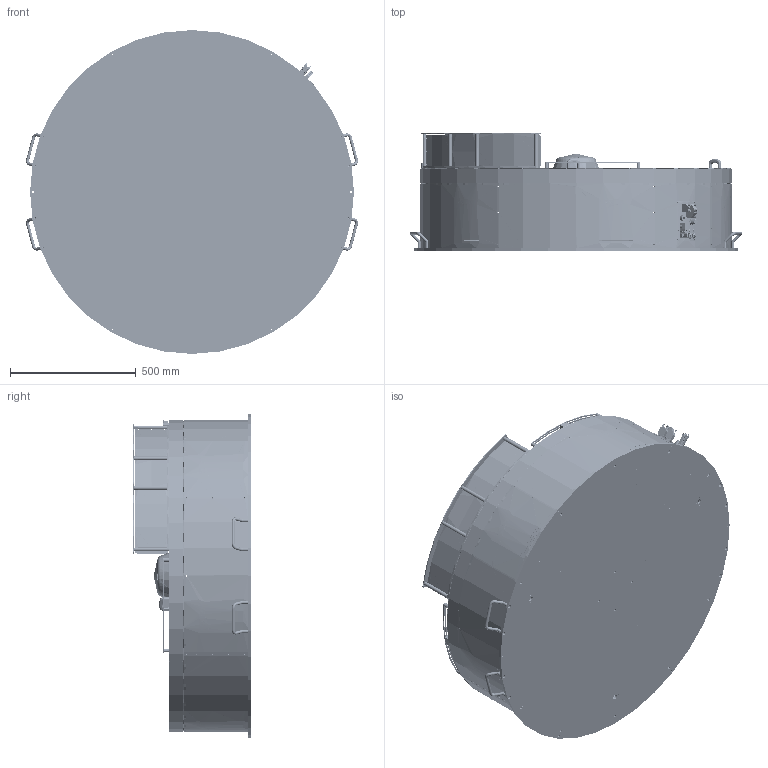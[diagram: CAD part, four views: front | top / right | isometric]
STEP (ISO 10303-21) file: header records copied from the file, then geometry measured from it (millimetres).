
FILE_DESCRIPTION (( 'STEP AP203' ), '1' );
FILE_NAME ('GM001405.STEP', '2024-11-04T13:10:21', ( '' ), ( '' ), 'SwSTEP 2.0', 'SolidWorks 2023', '' );
FILE_SCHEMA (( 'CONFIG_CONTROL_DESIGN' ));
Length unit declared in the file: millimetre
Products named in the file (52): CM000008_002; CE000039; PD001360_FB500; CE000418; PD003267; PD007188; PD000043; CM000686_002; CE000421; PD007250; CM000686; CM000015_001; CM000008_004; CM000001; CM000008_003; CE000420; PD003235; PD003269; CM000008_005; PD001119; PD003220; PD003249; Copia di _K1735_lastbuegel23^CM001145; PD006339; Copia di _K1735_lastbuegel13^CM001145; CE000013; CE000316; CE000276; CE000005; CM001145; PD003261; PD006337; CE000419; CM000015_002; PD006338; PD003274; PD003219; PD006333; CM000008; CM000686_001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
Assembly tree (75 placements, depth 3):
  GM001405
    CM000015  x2
      CM000015_001
      CM000015_002
    PD007188
    PD007250
    PD003219
    PD003221  x2
    PD003220
    PD003244
    PD003249
    PD006333
    PD001360_FB500
    CE000013  x2
    CE000005
    CM000008
      CM000008_001
      CM000008_003  x2
      CM000008_002
      CM000008_004
      CM000008_005
    CE000030  x2
    CE000316
    CM000686
      CM000686_001
      CM000686_002
    CE000039
    CE000276
    CE000420
    CE000419
    CE000418
    CE000421
    PD003259
    PD003261
    PD003235  x3
    PD006338  x2
    PD006337  x4
    PD003267  x2
    PD000043  x4
    PD003263
    PD003272  x4
    PD003269
    PD003317
    PD001119  x2
    PD006339
    PD006340
    CM000001  x4
    PD003274
    PD003262
    CM001145  x3
      Copia di _K1735_lastbuegel13^CM001145
      Copia di _K1735_lastbuegel23^CM001145
Bounding box: 1322.61 x 469 x 1290 mm (x, y, z)
Volume: 35217489.9 mm3; surface area: 10832933.7 mm2
Topology: 75 solids, 94 shells, 9904 faces, 26437 edges, 17090 vertices
Faces by surface type: plane 3987, cylinder 3131, bspline 1561, cone 826, torus 340, sphere 59
Entity records: 471739 total; most frequent: CARTESIAN_POINT 253811, ORIENTED_EDGE 48192, DIRECTION 37227, EDGE_CURVE 24298, VERTEX_POINT 15894, AXIS2_PLACEMENT_3D 14333, EDGE_LOOP 10611, FACE_OUTER_BOUND 9083
